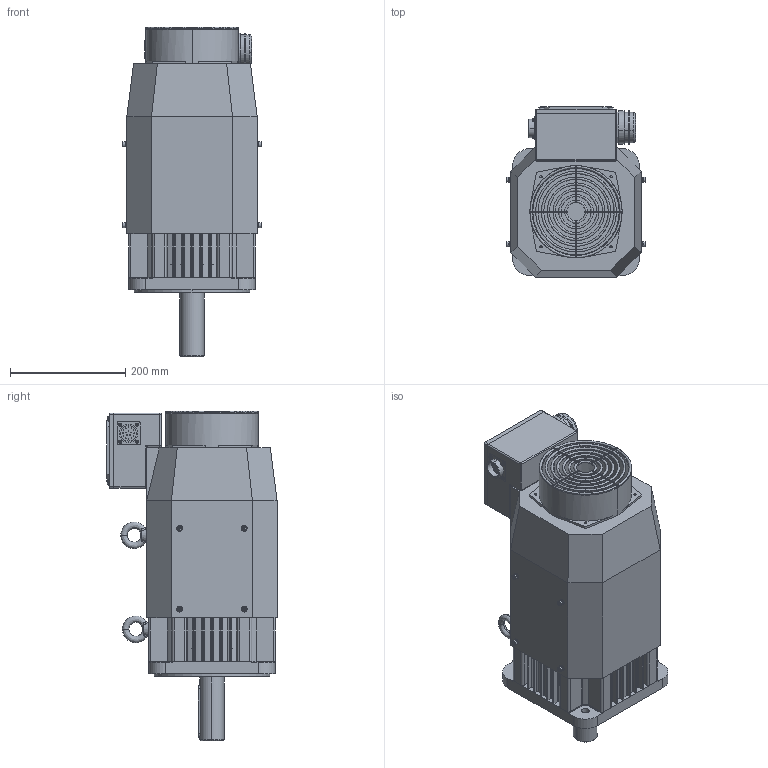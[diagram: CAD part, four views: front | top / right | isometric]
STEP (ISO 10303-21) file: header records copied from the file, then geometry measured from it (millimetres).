
FILE_DESCRIPTION (( 'STEP AP203' ), '1' );
FILE_NAME ('EMB-1AD.STEP', '2020-04-17T06:31:32', ( '' ), ( '' ), 'SwSTEP 2.0', 'SolidWorks 2018', '' );
FILE_SCHEMA (( 'CONFIG_CONTROL_DESIGN' ));
Length unit declared in the file: millimetre
Products named in the file (1): EMB-1AD
Bounding box: 240.6 x 295 x 571 mm (x, y, z)
Volume: 13874313.4 mm3; surface area: 1542727.7 mm2
Topology: 66 solids, 67 shells, 1875 faces, 4580 edges, 2860 vertices
Faces by surface type: plane 789, cylinder 712, cone 176, bspline 146, torus 44, sphere 8
Entity records: 61950 total; most frequent: CARTESIAN_POINT 17840, DIRECTION 9457, ORIENTED_EDGE 8952, EDGE_CURVE 4476, AXIS2_PLACEMENT_3D 3625, VERTEX_POINT 2860, VECTOR 2207, LINE 2207
